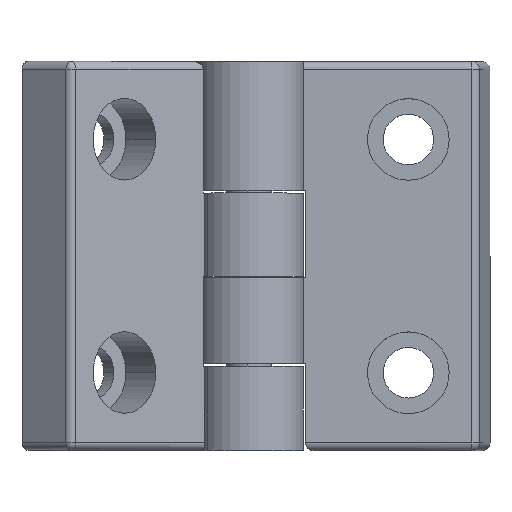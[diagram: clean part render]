
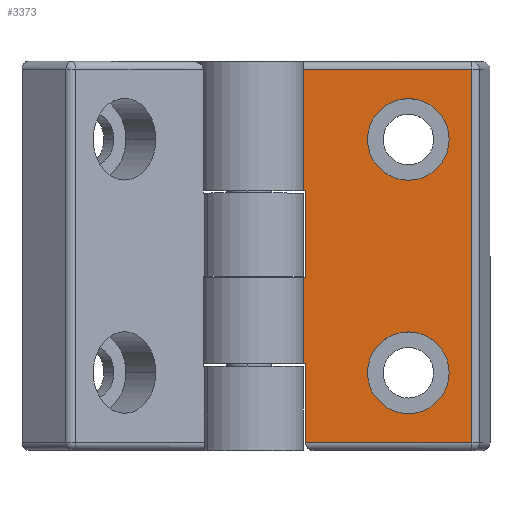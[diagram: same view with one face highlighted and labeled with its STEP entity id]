
A CAD part, top view. The second image highlights one B-rep face of the part: STEP entity #3373.
In plain terms, the highlighted planar face has unit normal (0, 0, 1).
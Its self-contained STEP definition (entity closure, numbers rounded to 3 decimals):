
#14 = CARTESIAN_POINT ( 'NONE',  ( -12., 25., 4. ) ) ;
#15 = CARTESIAN_POINT ( 'NONE',  ( 1.5, 15., 4. ) ) ;
#43 = EDGE_CURVE ( 'NONE', #3270, #2724, #2770, .T. ) ;
#81 = LINE ( 'NONE', #1319, #884 ) ;
#181 = ORIENTED_EDGE ( 'NONE', *, *, #3044, .T. ) ;
#187 = CARTESIAN_POINT ( 'NONE',  ( 0., -13.8, 4. ) ) ;
#193 = CARTESIAN_POINT ( 'NONE',  ( 9.67, 24., 4. ) ) ;
#207 = DIRECTION ( 'NONE',  ( 0., -1., 0. ) ) ;
#226 = VERTEX_POINT ( 'NONE', #2608 ) ;
#307 = DIRECTION ( 'NONE',  ( 0., 0., -1. ) ) ;
#324 = DIRECTION ( 'NONE',  ( 0., -1., 0. ) ) ;
#328 = DIRECTION ( 'NONE',  ( 1., 0., 0. ) ) ;
#368 = VERTEX_POINT ( 'NONE', #682 ) ;
#433 = ORIENTED_EDGE ( 'NONE', *, *, #3500, .T. ) ;
#561 = CARTESIAN_POINT ( 'NONE',  ( -12., -13.8, 4. ) ) ;
#588 = VERTEX_POINT ( 'NONE', #193 ) ;
#592 = CARTESIAN_POINT ( 'NONE',  ( -12., 24., 4. ) ) ;
#603 = EDGE_LOOP ( 'NONE', ( #1342, #3263 ) ) ;
#609 = CARTESIAN_POINT ( 'NONE',  ( 1.5, -15., 4. ) ) ;
#682 = CARTESIAN_POINT ( 'NONE',  ( 6.75, 15., 4. ) ) ;
#703 = CARTESIAN_POINT ( 'NONE',  ( 10.5, -24., 4. ) ) ;
#704 = VERTEX_POINT ( 'NONE', #3625 ) ;
#879 = CIRCLE ( 'NONE', #1083, 5.25 ) ;
#884 = VECTOR ( 'NONE', #3142, 1000. ) ;
#885 = ORIENTED_EDGE ( 'NONE', *, *, #1978, .T. ) ;
#891 = CARTESIAN_POINT ( 'NONE',  ( -11.7, -13.8, 4. ) ) ;
#910 = DIRECTION ( 'NONE',  ( 1., 0., 0. ) ) ;
#919 = VECTOR ( 'NONE', #2456, 1000. ) ;
#938 = CARTESIAN_POINT ( 'NONE',  ( 0., 0., 4. ) ) ;
#978 = VERTEX_POINT ( 'NONE', #561 ) ;
#984 = VERTEX_POINT ( 'NONE', #2694 ) ;
#1007 = VECTOR ( 'NONE', #2121, 1000. ) ;
#1023 = LINE ( 'NONE', #3827, #3538 ) ;
#1083 = AXIS2_PLACEMENT_3D ( 'NONE', #3261, #1444, #3561 ) ;
#1101 = EDGE_CURVE ( 'NONE', #2893, #2429, #1449, .T. ) ;
#1107 = DIRECTION ( 'NONE',  ( -1., 0., 0. ) ) ;
#1159 = VECTOR ( 'NONE', #207, 1000. ) ;
#1200 = CARTESIAN_POINT ( 'NONE',  ( -11.7, -24., 4. ) ) ;
#1238 = AXIS2_PLACEMENT_3D ( 'NONE', #609, #2745, #910 ) ;
#1239 = CARTESIAN_POINT ( 'NONE',  ( -12., -2.8, 4. ) ) ;
#1252 = ORIENTED_EDGE ( 'NONE', *, *, #3652, .T. ) ;
#1283 = EDGE_CURVE ( 'NONE', #1603, #226, #81, .T. ) ;
#1319 = CARTESIAN_POINT ( 'NONE',  ( -11.7, 0., 4. ) ) ;
#1342 = ORIENTED_EDGE ( 'NONE', *, *, #3292, .T. ) ;
#1408 = ORIENTED_EDGE ( 'NONE', *, *, #1751, .F. ) ;
#1416 = CARTESIAN_POINT ( 'NONE',  ( 9.67, 0., 4. ) ) ;
#1430 = VECTOR ( 'NONE', #3530, 1000. ) ;
#1444 = DIRECTION ( 'NONE',  ( 0., 0., 1. ) ) ;
#1449 = CIRCLE ( 'NONE', #1238, 5.25 ) ;
#1548 = DIRECTION ( 'NONE',  ( 1., 0., 0. ) ) ;
#1588 = CARTESIAN_POINT ( 'NONE',  ( -3.75, -15., 4. ) ) ;
#1603 = VERTEX_POINT ( 'NONE', #2588 ) ;
#1640 = FACE_BOUND ( 'NONE', #3618, .T. ) ;
#1731 = AXIS2_PLACEMENT_3D ( 'NONE', #2119, #307, #2417 ) ;
#1733 = LINE ( 'NONE', #3365, #919 ) ;
#1734 = LINE ( 'NONE', #14, #3255 ) ;
#1751 = EDGE_CURVE ( 'NONE', #984, #368, #879, .T. ) ;
#1804 = LINE ( 'NONE', #2425, #1007 ) ;
#1868 = CIRCLE ( 'NONE', #1731, 5.25 ) ;
#1876 = CARTESIAN_POINT ( 'NONE',  ( 9.67, -24., 4. ) ) ;
#1976 = VERTEX_POINT ( 'NONE', #1239 ) ;
#1978 = EDGE_CURVE ( 'NONE', #704, #1603, #1733, .T. ) ;
#2016 = DIRECTION ( 'NONE',  ( 0., -1., 0. ) ) ;
#2045 = LINE ( 'NONE', #3226, #2868 ) ;
#2054 = ORIENTED_EDGE ( 'NONE', *, *, #43, .T. ) ;
#2074 = ORIENTED_EDGE ( 'NONE', *, *, #1283, .T. ) ;
#2119 = CARTESIAN_POINT ( 'NONE',  ( 1.5, -15., 4. ) ) ;
#2121 = DIRECTION ( 'NONE',  ( 1., 0., 0. ) ) ;
#2130 = DIRECTION ( 'NONE',  ( 0., 0., 1. ) ) ;
#2314 = DIRECTION ( 'NONE',  ( 1., 0., 0. ) ) ;
#2343 = FACE_OUTER_BOUND ( 'NONE', #3815, .T. ) ;
#2417 = DIRECTION ( 'NONE',  ( 1., 0., 0. ) ) ;
#2425 = CARTESIAN_POINT ( 'NONE',  ( 0., -2.8, 4. ) ) ;
#2429 = VERTEX_POINT ( 'NONE', #3813 ) ;
#2449 = EDGE_CURVE ( 'NONE', #588, #3283, #2045, .T. ) ;
#2456 = DIRECTION ( 'NONE',  ( 1., 0., 0. ) ) ;
#2588 = CARTESIAN_POINT ( 'NONE',  ( -11.7, 8.4, 4. ) ) ;
#2594 = VECTOR ( 'NONE', #3137, 1000. ) ;
#2608 = CARTESIAN_POINT ( 'NONE',  ( -11.7, -2.8, 4. ) ) ;
#2691 = ORIENTED_EDGE ( 'NONE', *, *, #2449, .T. ) ;
#2694 = CARTESIAN_POINT ( 'NONE',  ( -3.75, 15., 4. ) ) ;
#2724 = VERTEX_POINT ( 'NONE', #1200 ) ;
#2732 = LINE ( 'NONE', #187, #3339 ) ;
#2745 = DIRECTION ( 'NONE',  ( 0., 0., -1. ) ) ;
#2770 = LINE ( 'NONE', #3139, #1159 ) ;
#2868 = VECTOR ( 'NONE', #1107, 1000. ) ;
#2893 = VERTEX_POINT ( 'NONE', #1588 ) ;
#3014 = AXIS2_PLACEMENT_3D ( 'NONE', #15, #2130, #328 ) ;
#3044 = EDGE_CURVE ( 'NONE', #3283, #704, #1023, .T. ) ;
#3045 = EDGE_CURVE ( 'NONE', #978, #3270, #2732, .T. ) ;
#3072 = PLANE ( 'NONE',  #3361 ) ;
#3137 = DIRECTION ( 'NONE',  ( 1., 0., 0. ) ) ;
#3139 = CARTESIAN_POINT ( 'NONE',  ( -11.7, 0., 4. ) ) ;
#3142 = DIRECTION ( 'NONE',  ( 0., -1., 0. ) ) ;
#3183 = ORIENTED_EDGE ( 'NONE', *, *, #3045, .T. ) ;
#3226 = CARTESIAN_POINT ( 'NONE',  ( -12., 24., 4. ) ) ;
#3255 = VECTOR ( 'NONE', #324, 1000. ) ;
#3261 = CARTESIAN_POINT ( 'NONE',  ( 1.5, 15., 4. ) ) ;
#3263 = ORIENTED_EDGE ( 'NONE', *, *, #1101, .T. ) ;
#3270 = VERTEX_POINT ( 'NONE', #891 ) ;
#3283 = VERTEX_POINT ( 'NONE', #592 ) ;
#3292 = EDGE_CURVE ( 'NONE', #2429, #2893, #1868, .T. ) ;
#3323 = EDGE_CURVE ( 'NONE', #1976, #978, #1734, .T. ) ;
#3325 = CIRCLE ( 'NONE', #3014, 5.25 ) ;
#3339 = VECTOR ( 'NONE', #2314, 1000. ) ;
#3361 = AXIS2_PLACEMENT_3D ( 'NONE', #938, #3369, #1548 ) ;
#3365 = CARTESIAN_POINT ( 'NONE',  ( 0., 8.4, 4. ) ) ;
#3369 = DIRECTION ( 'NONE',  ( 0., 0., 1. ) ) ;
#3373 = ADVANCED_FACE ( 'NONE', ( #3870, #1640, #2343 ), #3072, .T. ) ;
#3384 = ORIENTED_EDGE ( 'NONE', *, *, #3722, .F. ) ;
#3392 = LINE ( 'NONE', #703, #2594 ) ;
#3426 = ORIENTED_EDGE ( 'NONE', *, *, #3729, .F. ) ;
#3500 = EDGE_CURVE ( 'NONE', #2724, #3857, #3392, .T. ) ;
#3530 = DIRECTION ( 'NONE',  ( 0., 1., 0. ) ) ;
#3538 = VECTOR ( 'NONE', #2016, 1000. ) ;
#3561 = DIRECTION ( 'NONE',  ( 1., 0., 0. ) ) ;
#3618 = EDGE_LOOP ( 'NONE', ( #3426, #1408 ) ) ;
#3625 = CARTESIAN_POINT ( 'NONE',  ( -12., 8.4, 4. ) ) ;
#3652 = EDGE_CURVE ( 'NONE', #3857, #588, #3772, .T. ) ;
#3722 = EDGE_CURVE ( 'NONE', #1976, #226, #1804, .T. ) ;
#3729 = EDGE_CURVE ( 'NONE', #368, #984, #3325, .T. ) ;
#3759 = ORIENTED_EDGE ( 'NONE', *, *, #3323, .T. ) ;
#3772 = LINE ( 'NONE', #1416, #1430 ) ;
#3813 = CARTESIAN_POINT ( 'NONE',  ( 6.75, -15., 4. ) ) ;
#3815 = EDGE_LOOP ( 'NONE', ( #1252, #2691, #181, #885, #2074, #3384, #3759, #3183, #2054, #433 ) ) ;
#3827 = CARTESIAN_POINT ( 'NONE',  ( -12., 25., 4. ) ) ;
#3857 = VERTEX_POINT ( 'NONE', #1876 ) ;
#3870 = FACE_BOUND ( 'NONE', #603, .T. ) ;
